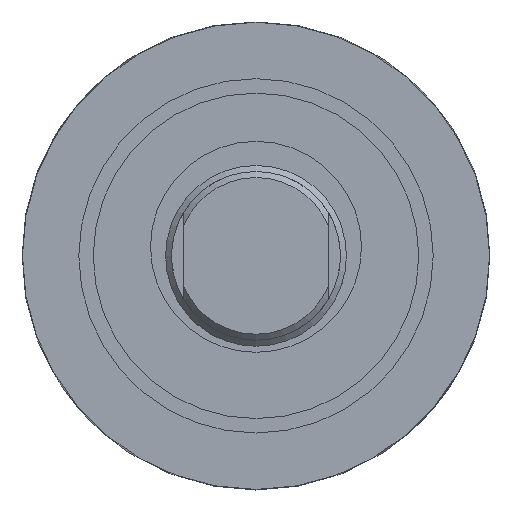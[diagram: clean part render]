
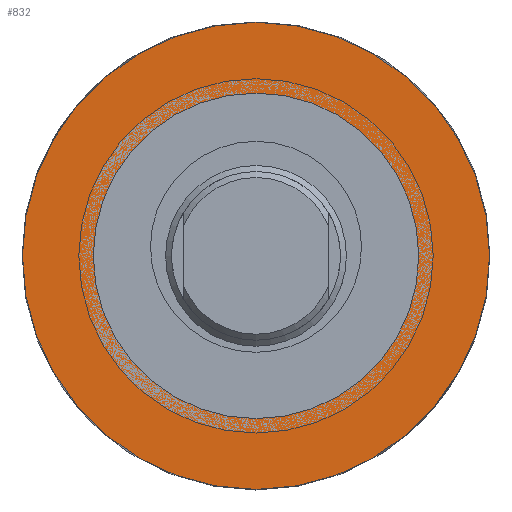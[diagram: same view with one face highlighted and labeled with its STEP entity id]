
A CAD part, left-side view. The second image highlights one B-rep face of the part: STEP entity #832.
In plain terms, the highlighted planar face has unit normal (-1, 0, 0).
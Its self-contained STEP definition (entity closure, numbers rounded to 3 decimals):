
#150=FACE_OUTER_BOUND('',#206,.T.);
#206=EDGE_LOOP('',(#608));
#268=CIRCLE('',#940,38.756);
#349=VERTEX_POINT('',#1480);
#445=EDGE_CURVE('',#349,#349,#268,.T.);
#608=ORIENTED_EDGE('',*,*,#445,.T.);
#732=PLANE('',#939);
#832=ADVANCED_FACE('',(#150),#732,.T.);
#939=AXIS2_PLACEMENT_3D('',#1479,#1133,#1134);
#940=AXIS2_PLACEMENT_3D('',#1481,#1135,#1136);
#1133=DIRECTION('center_axis',(-1.,0.,0.));
#1134=DIRECTION('ref_axis',(0.,0.,-1.));
#1135=DIRECTION('center_axis',(-1.,0.,0.));
#1136=DIRECTION('ref_axis',(0.,0.,1.));
#1479=CARTESIAN_POINT('Origin',(75.5,-34.078,0.));
#1480=CARTESIAN_POINT('',(75.5,0.,-38.756));
#1481=CARTESIAN_POINT('Origin',(75.5,0.,0.));
